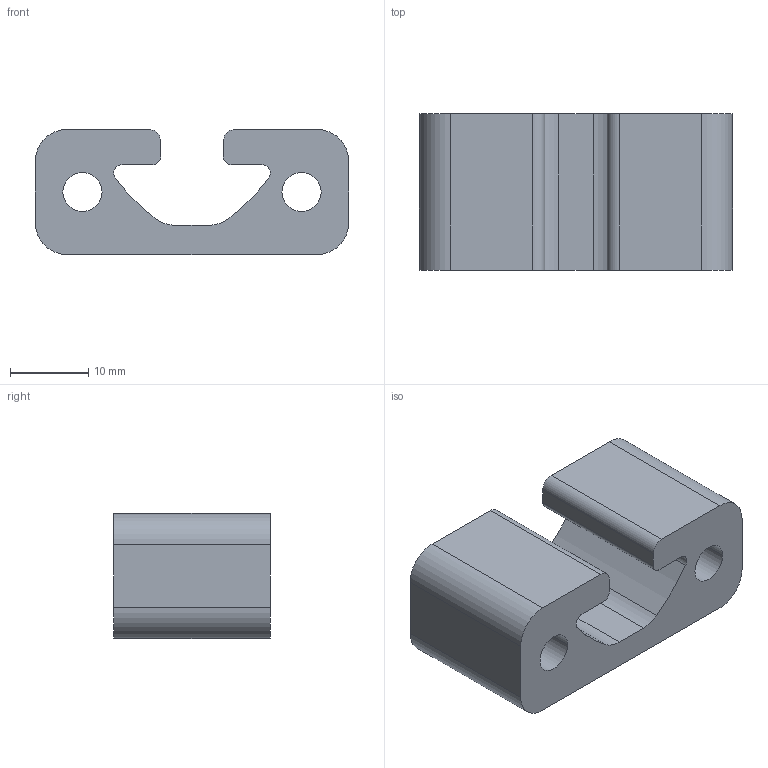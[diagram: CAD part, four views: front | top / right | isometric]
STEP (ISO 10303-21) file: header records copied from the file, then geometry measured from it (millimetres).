
FILE_DESCRIPTION(('STEP AP214'),'1');
FILE_NAME('cctmp_A550B485-2227-47A9-BBF8-59CF6AF2EFCE_2023_04_25_13_48_46_0843_23700..stp','2023-04-25T11:48:46',('item Industrietechnik GmbH'),('CADClick - www.CADClick.com'),'Spatial InterOp 3D',' ','unknown authorization');
FILE_SCHEMA(('AUTOMOTIVE_DESIGN'));
Length unit declared in the file: millimetre
Products named in the file (2): item_0002684_Profile 8 40x16_L=20; item_0002684_Profile 8 40x16_L=20_1
Assembly tree (1 placements, depth 2):
  item_0002684_Profile 8 40x16_L=20
    item_0002684_Profile 8 40x16_L=20_1
Bounding box: 40 x 20 x 16 mm (x, y, z)
Volume: 8634.6 mm3; surface area: 4350.2 mm2
Topology: 1 solids, 1 shells, 30 faces, 84 edges, 56 vertices
Faces by surface type: cylinder 18, plane 12
Entity records: 1283 total; most frequent: DIRECTION 184, CARTESIAN_POINT 172, ORIENTED_EDGE 168, EDGE_CURVE 84, AXIS2_PLACEMENT_3D 68, VERTEX_POINT 56, LINE 48, VECTOR 48
